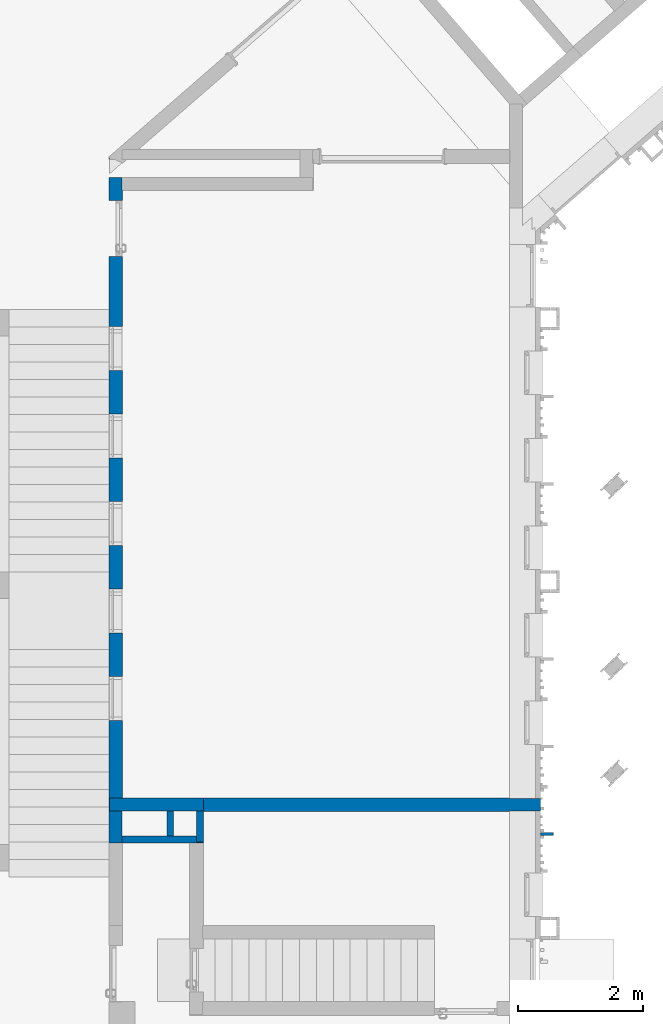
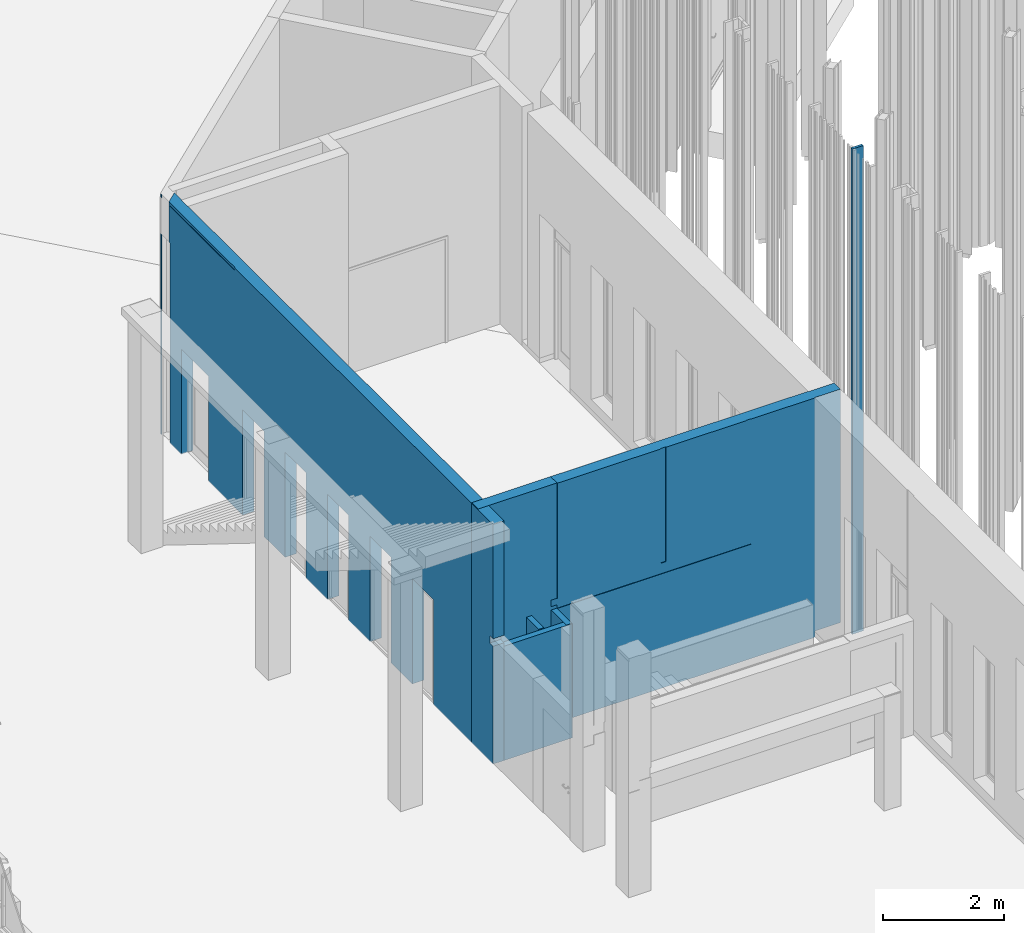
# One storey, part 187 of 390: 8 walls.
"""IFC2X3 building model written with IfcOpenShell, lengths in millimetres."""

from ifc_helpers import new_model, entity, si_unit, converted_unit, derived_unit, money_unit, direction, frame, origin_with_axes, place, context, subcontext, project, spatial, faceted_brep, material, material_list, type_object, element, save


model = new_model("IFC2X3")

# Units and contexts
model_context = context("Model", 3, precision=1e-05, world=origin_with_axes(), true_north=direction((0.0, 1.0)))
body_context = subcontext(model_context, "Body", "Model", "MODEL_VIEW")
ifc_project = project(units=[si_unit("LENGTHUNIT", "METRE", prefix="MILLI"), si_unit("AREAUNIT", "SQUARE_METRE"), si_unit("VOLUMEUNIT", "CUBIC_METRE"), converted_unit("PLANEANGLEUNIT", "DEGREE", entity("IfcPlaneAngleMeasure", 0.0174532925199), si_unit("PLANEANGLEUNIT", "RADIAN"), dimensions=[0, 0, 0, 0, 0, 0, 0]), si_unit("SOLIDANGLEUNIT", "STERADIAN"), money_unit("EUR"), converted_unit("TIMEUNIT", "Year", entity("IfcTimeMeasure", 31556926.0), si_unit("TIMEUNIT", "SECOND"), dimensions=[0, 0, 1, 0, 0, 0, 0]), si_unit("MASSUNIT", "GRAM", prefix="KILO"), si_unit("THERMODYNAMICTEMPERATUREUNIT", "DEGREE_CELSIUS"), si_unit("LUMINOUSINTENSITYUNIT", "LUMEN"), si_unit("ENERGYUNIT", "JOULE", prefix="MEGA"), derived_unit("THERMALCONDUCTANCEUNIT", [(si_unit("POWERUNIT", "WATT"), 1), (si_unit("LENGTHUNIT", "METRE"), -1), (si_unit("THERMODYNAMICTEMPERATUREUNIT", "KELVIN"), -1)]), derived_unit("SPECIFICHEATCAPACITYUNIT", [(si_unit("ENERGYUNIT", "JOULE"), 1), (si_unit("MASSUNIT", "GRAM", prefix="KILO"), -1), (si_unit("THERMODYNAMICTEMPERATUREUNIT", "KELVIN"), -1)]), derived_unit("MASSDENSITYUNIT", [(si_unit("MASSUNIT", "GRAM", prefix="KILO"), 1), (si_unit("VOLUMEUNIT", "CUBIC_METRE"), -1)])], contexts=[model_context])

# Site, building, storey
site_placement = place(None, origin_with_axes())
site = spatial("IfcSite", under=ifc_project, at=site_placement, Name="Site", CompositionType="ELEMENT")
building_placement = place(site_placement, origin_with_axes())
building = spatial("IfcBuilding", under=site, at=building_placement, Name="Building", CompositionType="ELEMENT")
storey_placement = place(building_placement, origin_with_axes())
storey = spatial("IfcBuildingStorey", under=building, at=storey_placement, Name="1 korrus", CompositionType="ELEMENT", Elevation=0.0)

# Walls
ifc_material_1 = material(Name="Müüriplokk - Konstuktsioon")
wall_type_1 = type_object("IfcWallType", Name="SS-09", PredefinedType="NOTDEFINED")
wall_1_placement = place(storey_placement, frame((133909.999998, 56540.0000083, -20.0), z_axis=(0.0, 0.0, 1.0), x_axis=(9.43084369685e-08, 1.0, 0.0)))
element("IfcWall", 1, at=wall_1_placement, inside=storey, type_object=wall_type_1, material=ifc_material_1, Name="SS-09", context=body_context, shape_type="Brep", body=[
    faceted_brep([(-1.21853958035e-05, 100.0, 0.0), (399.999923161, 100.000037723, 0.0), (399.999923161, 3.77233675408e-05, 0.0), (-2.81201550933e-06, 0.0, 0.0), (-1.21853958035e-05, 100.0, 2320.0), (399.999923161, 100.000037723, 2320.0), (399.999923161, 3.77233675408e-05, 2320.0), (-2.81201550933e-06, 0.0, 2320.0)], [[[0, 1, 2, 3]], [[4, 5, 1, 0]], [[6, 2, 1, 5]], [[3, 2, 6, 7]], [[7, 4, 0, 3]], [[7, 6, 5, 4]]]),
])
ifc_material_2 = material(Name="Krohv - Lubjakivi")
ifc_material_3 = material(Name="Raudbetoon - Konstruktsioon")
ifc_material_list_1 = material_list([ifc_material_2, ifc_material_2, ifc_material_3, ifc_material_2])
wall_type_2 = type_object("IfcWallType", Name="SS-10", PredefinedType="NOTDEFINED")
wall_2_placement = place(storey_placement, frame((139289.999977, 56929.9994348, -20.0), z_axis=(0.0, 0.0, 1.0), x_axis=(-1.0, 2.91206390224e-07, 0.0)))
element("IfcWall", 2, at=wall_2_placement, inside=storey, type_object=wall_type_2, material=ifc_material_list_1, Name="SS-10", context=body_context, shape_type="Brep", body=[
    faceted_brep([(1309.99997885, 0.0, 2500.0), (1309.99998176, -9.99976594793, 2500.0), (1309.99998176, -10.0, 4820.0), (1309.99997885, 0.0, 4820.0), (4899.99992003, -9.99902554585, 2500.0), (4899.99991885, 0.0, 2500.0), (4899.99992003, -10.0, 4820.0), (2929.99998212, -10.0, 4820.0), (2929.99998212, -10.0, 2520.0), (2829.99998212, -10.0, 2520.0), (2829.99998212, -10.0, 4820.0), (2829.9999792, 0.0, 4820.0), (2829.9999792, 0.0, 2520.0), (2929.9999792, 0.0, 2520.0), (2929.9999792, 0.0, 4820.0), (4899.99991885, 0.0, 4820.0)], [[[0, 1, 2, 3]], [[4, 1, 0, 5]], [[1, 4, 6, 7, 8, 9, 10, 2]], [[11, 3, 2, 10]], [[5, 0, 3, 11, 12, 13, 14, 15]], [[4, 5, 15, 6]], [[15, 14, 7, 6]], [[7, 14, 13, 8]], [[8, 13, 12, 9]], [[10, 9, 12, 11]]]),
    faceted_brep([(4899.99992003, -9.99902554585, 2300.0), (1209.99980918, -9.99978657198, 2300.0), (1209.99980918, -9.99978657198, 2320.0), (1209.99998176, -10.0, 4820.0), (-1.67673022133e-05, -10.0, 4819.99999946), (-0.0001868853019, -10.0, 0.0), (4899.99992003, -10.0, 0.0), (4899.99991886, 0.0, 2300.0), (1209.99980706, 0.0, 2300.0), (1209.99997885, 0.0, 4820.0), (-1.96793621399e-05, 0.0, 4819.99999946), (-0.000189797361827, 0.0, 0.0), (4899.99991886, 0.0, 0.0)], [[[0, 1, 2, 3, 4, 5, 6]], [[1, 0, 7, 8]], [[2, 1, 8, 9, 3]], [[9, 10, 4, 3]], [[11, 5, 4, 10]], [[11, 12, 6, 5]], [[7, 0, 6, 12]], [[8, 7, 12, 11, 10, 9]]]),
    faceted_brep([(-497.000042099, -10.0, 119.999998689), (-10.0001868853, -10.0, 120.0), (-10.000128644, -210.0, 120.0), (-496.999983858, -210.0, 119.999998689), (-10.0001868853, -10.0, 0.0), (-497.000042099, -10.0, 4820.0), (5009.99992838, -10.0, 4820.0), (5009.99990488, -10.0, 0.0), (-10.000128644, -210.0, 0.0), (5009.99992828, -210.0, 0.0), (5009.99995205, -210.0, 4820.0), (-496.999983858, -210.0, 4820.0)], [[[0, 1, 2, 3]], [[4, 1, 0, 5, 6, 7]], [[4, 8, 2, 1]], [[3, 2, 8, 9, 10, 11]], [[11, 5, 0, 3]], [[5, 11, 10, 6]], [[10, 9, 7, 6]], [[9, 8, 4, 7]]]),
    faceted_brep([(4.14739815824e-05, -210.0, 4819.99999947), (-0.000128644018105, -210.0, 0.0), (-0.0001257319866, -219.999923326, 0.0), (4.43860415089e-05, -220.0, 4819.99999947), (4899.9999437, -210.0, 4820.0), (4899.9999437, -210.0, 2500.0), (5009.9999437, -210.0, 2500.0), (5009.99994343, -210.0, 2370.00000107), (4899.99994343, -210.0, 2370.00000107), (4899.99994343, -210.0, 0.0), (4899.9999446, -219.999024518, 0.0), (4899.9999446, -219.999024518, 2370.00000107), (5009.9999446, -219.999002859, 2370.00000107), (5009.99994489, -219.999002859, 2500.0), (4899.99994489, -219.999024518, 2500.0), (4899.99994489, -219.999024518, 4820.0)], [[[0, 1, 2, 3]], [[1, 0, 4, 5, 6, 7, 8, 9]], [[2, 1, 9, 10]], [[2, 10, 11, 12, 13, 14, 15, 3]], [[15, 4, 0, 3]], [[4, 15, 14, 5]], [[5, 14, 13, 6]], [[6, 13, 12, 7]], [[11, 8, 7, 12]], [[11, 10, 9, 8]]]),
])
ifc_material_list_2 = material_list([ifc_material_2, ifc_material_2, ifc_material_2, ifc_material_3, ifc_material_2, ifc_material_2])
wall_3_placement = place(storey_placement, frame((132879.999997, 57150.0000251, -20.0), z_axis=(0.0, 0.0, 1.0), x_axis=(0.0, 1.0, 0.0)))
element("IfcWall", 3, at=wall_3_placement, inside=storey, type_object=wall_type_2, material=ifc_material_list_2, Name="SS-10", context=body_context, shape_type="Brep", body=[
    faceted_brep([(9923.17495141, -10.0000006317, 20.0), (9923.17495141, -10.0000006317, 4020.0), (9940.15906908, -10.0000006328, 4020.0), (9940.15906908, -10.0000143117, 4765.0), (7809.99997345, -10.0000837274, 4765.0), (7809.99997345, -10.0000837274, 4820.0), (-6.39488462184e-10, -9.99999999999, 4820.0), (-6.39488462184e-10, -9.99999999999, 0.0), (1240.05849614, -10.0000000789, 0.0), (1240.05849615, -10.0000000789, 20.0), (1240.05849615, -10.0000000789, 2120.0), (1940.05849615, -10.0000001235, 2120.0), (1940.05849615, -10.0000001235, 20.0), (1940.05849614, -10.0000001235, 0.0), (2640.05849614, -10.0000001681, 0.0), (2640.05849615, -10.0000001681, 20.0), (2640.05849615, -10.0000833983, 2120.0), (3340.05849615, -10.0000834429, 2120.0), (3340.05849615, -10.0000002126, 20.0), (3340.05849614, -10.0000002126, 0.0), (4040.05849614, -10.0000002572, 0.0), (4040.05849615, -10.0000002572, 20.0), (4040.05849615, -10.0000002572, 2120.0), (4740.05849615, -10.0000003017, 2120.0), (4740.05849615, -10.0000003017, 20.0), (4740.05849614, -10.0000003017, 0.0), (5440.05849614, -10.0000003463, 0.0), (5440.05849615, -10.0000003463, 20.0), (5440.05849615, -10.0000003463, 2120.0), (6140.05849615, -10.0000003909, 2120.0), (6140.05849615, -10.0000003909, 20.0), (6140.05849614, -10.0000003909, 0.0), (6840.05849614, -10.0000004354, 0.0), (6840.05849615, -10.0000004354, 20.0), (6840.05849615, -10.0000004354, 2120.0), (7540.05849615, -10.00000048, 2120.0), (7540.05849615, -10.00000048, 20.0), (7540.05849614, -10.00000048, 0.0), (8659.99998537, -10.0000005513, 0.0), (8659.99998538, -10.0000005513, 20.0), (8659.99998538, -10.0000005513, 2120.0), (9559.99998538, -10.0000006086, 2120.0), (9559.99998538, -10.0000006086, 20.0), (9559.99998537, -10.0000006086, 0.0), (9923.1749514, -10.0000006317, 0.0), (9923.17495141, -1.94071958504e-05, 20.0), (9923.17495141, -1.94071958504e-05, 4020.0), (9940.15876519, -1.94082758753e-05, 4020.0), (9940.15876519, -1.35628397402e-07, 4765.0), (7809.99997356, 0.0, 4765.0), (7809.99999804, 0.0, 4820.0), (0.0, 0.0, 4820.0), (0.0, 0.0, 0.0), (1240.05849614, -7.89555087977e-08, 0.0), (1240.05849615, -7.89555087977e-08, 20.0), (1240.05849615, 4.18225454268e-07, 2120.0), (1940.05849615, 3.73660213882e-07, 2120.0), (1940.05849615, -1.23520749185e-07, 20.0), (1940.05849614, -1.23520749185e-07, 0.0), (2640.05849614, -1.68085989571e-07, 0.0), (2640.05849615, -1.68085989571e-07, 20.0), (2640.05849615, 3.29094973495e-07, 2120.0), (3340.05849615, 2.84529733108e-07, 2120.0), (3340.05849615, -2.12651229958e-07, 20.0), (3340.05849614, -2.12651229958e-07, 0.0), (4040.05849614, -2.57188048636e-07, 0.0), (4040.05849615, -2.57188048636e-07, 20.0), (4040.05849615, 2.3999291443e-07, 2120.0), (4740.05849615, 1.95427674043e-07, 2120.0), (4740.05849615, -3.01753289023e-07, 20.0), (4740.05849614, -3.01753289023e-07, 0.0), (5440.05849614, -3.46318529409e-07, 0.0), (5440.05849615, -3.46318529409e-07, 20.0), (5440.05849615, 1.50862433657e-07, 2120.0), (6140.05849615, 1.0629719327e-07, 2120.0), (6140.05849615, -3.90883769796e-07, 20.0), (6140.05849614, -3.90883769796e-07, 0.0), (6840.05849614, -4.35449010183e-07, 0.0), (6840.05849615, -4.35449010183e-07, 20.0), (6840.05849615, 6.17319528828e-08, 2120.0), (7540.05849615, 1.7166712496e-08, 2120.0), (7540.05849615, -4.8001425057e-07, 20.0), (7540.05849614, -4.8001425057e-07, 0.0), (8659.99998537, -5.51295897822e-07, 0.0), (8659.99998538, -5.51295897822e-07, 20.0), (8659.99998538, -5.41149347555e-08, 2120.0), (9559.99998538, -1.11413100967e-07, 2120.0), (9559.99998538, -6.08594064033e-07, 20.0), (9559.99998537, -6.08594064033e-07, 0.0), (9923.1749514, -6.3172933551e-07, 0.0)], [[[0, 1, 2, 3, 4, 5, 6, 7, 8, 9, 10, 11, 12, 13, 14, 15, 16, 17, 18, 19, 20, 21, 22, 23, 24, 25, 26, 27, 28, 29, 30, 31, 32, 33, 34, 35, 36, 37, 38, 39, 40, 41, 42, 43, 44]], [[1, 0, 45, 46]], [[47, 2, 1, 46]], [[2, 47, 48, 3]], [[3, 48, 49, 4]], [[5, 4, 49, 50]], [[50, 51, 6, 5]], [[7, 6, 51, 52]], [[8, 7, 52, 53]], [[53, 54, 9, 8]], [[55, 10, 9, 54]], [[56, 11, 10, 55]], [[57, 12, 11, 56]], [[13, 12, 57, 58]], [[14, 13, 58, 59]], [[60, 15, 14, 59]], [[16, 15, 60, 61]], [[17, 16, 61, 62]], [[18, 17, 62, 63]], [[18, 63, 64, 19]], [[20, 19, 64, 65]], [[20, 65, 66, 21]], [[66, 67, 22, 21]], [[67, 68, 23, 22]], [[68, 69, 24, 23]], [[70, 25, 24, 69]], [[26, 25, 70, 71]], [[27, 26, 71, 72]], [[27, 72, 73, 28]], [[28, 73, 74, 29]], [[29, 74, 75, 30]], [[75, 76, 31, 30]], [[32, 31, 76, 77]], [[78, 33, 32, 77]], [[34, 33, 78, 79]], [[35, 34, 79, 80]], [[36, 35, 80, 81]], [[36, 81, 82, 37]], [[38, 37, 82, 83]], [[83, 84, 39, 38]], [[85, 40, 39, 84]], [[86, 41, 40, 85]], [[87, 42, 41, 86]], [[43, 42, 87, 88]], [[44, 43, 88, 89]], [[45, 0, 44, 89]], [[46, 45, 89, 88, 87, 86, 85, 84, 83, 82, 81, 80, 79, 78, 77, 76, 75, 74, 73, 72, 71, 70, 69, 68, 67, 66, 65, 64, 63, 62, 61, 60, 59, 58, 57, 56, 55, 54, 53, 52, 51, 50, 49, 48, 47]]]),
    faceted_brep([(10210.1749514, -1.94254710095e-05, 4020.0), (10210.1749514, -10.00000065, 4020.0), (10250.6023116, -10.0000006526, 4020.0), (10241.9094443, -6.52022436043e-07, 4020.0), (10210.1749514, -10.00000065, 20.0), (10210.1749514, -1.94254710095e-05, 20.0), (10210.1749514, -10.00000065, 0.0), (10250.6023116, -10.0000006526, 0.0), (10241.9094443, -6.52022436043e-07, 0.0), (10210.1749514, -6.50004494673e-07, 0.0)], [[[0, 1, 2, 3]], [[4, 1, 0, 5]], [[1, 4, 6, 7, 2]], [[3, 2, 7, 8]], [[5, 0, 3, 8, 9]], [[4, 5, 9, 6]], [[9, 8, 7, 6]]]),
    faceted_brep([(10210.1749514, -1.52823531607e-07, 4820.0), (10210.1749512, -10.000083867, 4820.0), (10250.6023116, -10.0000006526, 4820.0), (10241.9094443, -6.52022436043e-07, 4820.0), (10210.1749512, -10.0000055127, 4765.0), (10210.1749514, -1.52823531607e-07, 4765.0), (10250.6023116, -10.0000006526, 4765.0), (10241.9094443, -6.52022436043e-07, 4765.0)], [[[0, 1, 2, 3]], [[4, 1, 0, 5]], [[1, 4, 6, 2]], [[2, 6, 7, 3]], [[5, 0, 3, 7]], [[4, 5, 7, 6]]]),
    faceted_brep([(9923.1749514, -210.000000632, 20.0), (9923.1749514, -210.000000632, 4020.0), (10159.4570598, -210.000000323, 4020.0), (10159.4570605, -210.000000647, 4820.0), (-1.3372414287e-08, -210.0, 4820.0), (-1.3372414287e-08, -210.0, 0.0), (1240.05849614, -210.000000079, 0.0), (1240.05849614, -210.000000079, 20.0), (1240.05849614, -210.000000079, 2120.0), (1940.05849614, -210.000000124, 2120.0), (1940.05849614, -210.000000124, 20.0), (1940.05849614, -210.000000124, 0.0), (2640.05849614, -210.000000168, 0.0), (2640.05849614, -210.000000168, 20.0), (2640.05849614, -210.000000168, 2120.0), (3340.05849614, -210.000000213, 2120.0), (3340.05849614, -210.000000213, 20.0), (3340.05849614, -210.000000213, 0.0), (4040.05849614, -210.000000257, 0.0), (4040.05849614, -210.000000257, 20.0), (4040.05849614, -210.000000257, 2120.0), (4740.05849614, -210.000000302, 2120.0), (4740.05849614, -210.000000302, 20.0), (4740.05849614, -210.000000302, 0.0), (5440.05849614, -210.000000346, 0.0), (5440.05849614, -210.000000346, 20.0), (5440.05849614, -210.000000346, 2120.0), (6140.05849614, -210.000000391, 2120.0), (6140.05849614, -210.000000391, 20.0), (6140.05849614, -210.000000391, 0.0), (6840.05849614, -210.000000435, 0.0), (6840.05849614, -210.000000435, 20.0), (6840.05849614, -210.000000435, 2120.0), (7540.05849614, -210.00000048, 2120.0), (7540.05849614, -210.00000048, 20.0), (7540.05849614, -210.00000048, 0.0), (8659.99998537, -210.000000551, 0.0), (8659.99998537, -210.000000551, 20.0), (8659.99998537, -210.000000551, 2120.0), (9559.99998537, -210.000000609, 2120.0), (9559.99998537, -210.000000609, 20.0), (9559.99998537, -210.000000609, 0.0), (9923.1749514, -210.000000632, 0.0), (9923.17495141, -10.0000006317, 20.0), (9923.17495141, -10.0000006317, 4020.0), (9985.59971294, -10.0000006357, 4020.0), (9985.59971294, -10.0000006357, 4820.0), (-6.39488462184e-10, -9.99999999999, 4820.0), (-6.39488462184e-10, -9.99999999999, 0.0), (1240.05849614, -10.0000000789, 0.0), (1240.05849615, -10.0000000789, 20.0), (1240.05849615, -10.0000000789, 2120.0), (1940.05849615, -10.0000001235, 2120.0), (1940.05849615, -10.0000001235, 20.0), (1940.05849614, -10.0000001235, 0.0), (2640.05849614, -10.0000001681, 0.0), (2640.05849615, -10.0000001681, 20.0), (2640.05849615, -10.0000001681, 2120.0), (3340.05849615, -10.0000002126, 2120.0), (3340.05849615, -10.0000002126, 20.0), (3340.05849614, -10.0000002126, 0.0), (4040.05849614, -10.0000002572, 0.0), (4040.05849615, -10.0000002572, 20.0), (4040.05849615, -10.0000002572, 2120.0), (4740.05849615, -10.0000003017, 2120.0), (4740.05849615, -10.0000003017, 20.0), (4740.05849614, -10.0000003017, 0.0), (5440.05849614, -10.0000003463, 0.0), (5440.05849615, -10.0000003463, 20.0), (5440.05849615, -10.0000003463, 2120.0), (6140.05849615, -10.0000003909, 2120.0), (6140.05849615, -10.0000003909, 20.0), (6140.05849614, -10.0000003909, 0.0), (6840.05849614, -10.0000004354, 0.0), (6840.05849615, -10.0000004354, 20.0), (6840.05849615, -10.0000004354, 2120.0), (7540.05849615, -10.00000048, 2120.0), (7540.05849615, -10.00000048, 20.0), (7540.05849614, -10.00000048, 0.0), (8659.99998537, -10.0000005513, 0.0), (8659.99998538, -10.0000005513, 20.0), (8659.99998538, -10.0000005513, 2120.0), (9559.99998538, -10.0000006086, 2120.0), (9559.99998538, -10.0000006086, 20.0), (9559.99998537, -10.0000006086, 0.0), (9923.1749514, -10.0000006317, 0.0)], [[[0, 1, 2, 3, 4, 5, 6, 7, 8, 9, 10, 11, 12, 13, 14, 15, 16, 17, 18, 19, 20, 21, 22, 23, 24, 25, 26, 27, 28, 29, 30, 31, 32, 33, 34, 35, 36, 37, 38, 39, 40, 41, 42]], [[1, 0, 43, 44]], [[45, 2, 1, 44]], [[2, 45, 46, 3]], [[47, 4, 3, 46]], [[47, 48, 5, 4]], [[5, 48, 49, 6]], [[50, 7, 6, 49]], [[8, 7, 50, 51]], [[9, 8, 51, 52]], [[10, 9, 52, 53]], [[10, 53, 54, 11]], [[11, 54, 55, 12]], [[13, 12, 55, 56]], [[13, 56, 57, 14]], [[14, 57, 58, 15]], [[15, 58, 59, 16]], [[59, 60, 17, 16]], [[17, 60, 61, 18]], [[61, 62, 19, 18]], [[63, 20, 19, 62]], [[64, 21, 20, 63]], [[65, 22, 21, 64]], [[23, 22, 65, 66]], [[23, 66, 67, 24]], [[24, 67, 68, 25]], [[68, 69, 26, 25]], [[69, 70, 27, 26]], [[70, 71, 28, 27]], [[72, 29, 28, 71]], [[29, 72, 73, 30]], [[31, 30, 73, 74]], [[31, 74, 75, 32]], [[32, 75, 76, 33]], [[33, 76, 77, 34]], [[77, 78, 35, 34]], [[35, 78, 79, 36]], [[80, 37, 36, 79]], [[81, 38, 37, 80]], [[82, 39, 38, 81]], [[83, 40, 39, 82]], [[41, 40, 83, 84]], [[41, 84, 85, 42]], [[43, 0, 42, 85]], [[44, 43, 85, 84, 83, 82, 81, 80, 79, 78, 77, 76, 75, 74, 73, 72, 71, 70, 69, 68, 67, 66, 65, 64, 63, 62, 61, 60, 59, 58, 57, 56, 55, 54, 53, 52, 51, 50, 49, 48, 47, 46, 45]]]),
    faceted_brep([(9923.1749514, -220.000000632, 4020.0), (10154.8997971, -220.000000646, 4020.0), (10154.899798, -220.000000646, 4820.0), (9923.1749514, -220.000000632, 4820.0), (10146.2069306, -210.000000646, 4020.0), (9923.1749514, -210.000000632, 4020.0), (10146.2069306, -210.000000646, 4820.0), (9923.1749514, -210.000000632, 4820.0)], [[[0, 1, 2, 3]], [[4, 1, 0, 5]], [[1, 4, 6, 2]], [[3, 2, 6, 7]], [[5, 0, 3, 7]], [[4, 5, 7, 6]]]),
    faceted_brep([(8659.99998537, -220.000000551, 20.0), (8659.99998537, -220.000000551, 2120.0), (9559.99998537, -220.000000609, 2120.0), (9559.99998537, -220.000000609, 20.0), (9559.99998537, -220.000000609, 0.0), (9723.1749514, -220.000000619, 0.0), (9723.1749514, -220.000000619, 4820.0), (-1.40047973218e-08, -220.0, 4820.0), (-1.40047973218e-08, -220.0, 0.0), (1240.05849614, -220.000000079, 0.0), (1240.05849614, -220.000000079, 20.0), (1240.05849614, -220.000000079, 2120.0), (1940.05849614, -220.000000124, 2120.0), (1940.05849614, -220.000000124, 20.0), (1940.05849614, -220.000000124, 0.0), (2640.05849614, -220.000000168, 0.0), (2640.05849614, -220.000000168, 20.0), (2640.05849614, -220.000000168, 2120.0), (3340.05849614, -220.000000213, 2120.0), (3340.05849614, -220.000000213, 20.0), (3340.05849614, -220.000000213, 0.0), (4040.05849614, -220.000000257, 0.0), (4040.05849614, -220.000000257, 20.0), (4040.05849614, -220.000000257, 2120.0), (4740.05849614, -220.000000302, 2120.0), (4740.05849614, -220.000000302, 20.0), (4740.05849614, -220.000000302, 0.0), (5440.05849614, -220.000000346, 0.0), (5440.05849614, -220.000000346, 20.0), (5440.05849614, -220.000000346, 2120.0), (6140.05849614, -220.000000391, 2120.0), (6140.05849614, -220.000000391, 20.0), (6140.05849614, -220.000000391, 0.0), (6840.05849614, -220.000000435, 0.0), (6840.05849614, -220.000000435, 20.0), (6840.05849614, -220.000000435, 2120.0), (7540.05849614, -220.00000048, 2120.0), (7540.05849614, -220.00000048, 20.0), (7540.05849614, -220.00000048, 0.0), (8659.99998537, -220.000000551, 0.0), (8659.99998537, -210.000000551, 20.0), (8659.99998537, -210.000000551, 2120.0), (9559.99998537, -210.000000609, 2120.0), (9559.99998537, -210.000000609, 20.0), (9559.99998537, -210.000000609, 0.0), (9723.1749514, -210.000000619, 0.0), (9723.1749514, -210.000000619, 4820.0), (-1.3372414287e-08, -210.0, 4820.0), (-1.3372414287e-08, -210.0, 0.0), (1240.05849614, -210.000000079, 0.0), (1240.05849614, -210.000000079, 20.0), (1240.05849614, -210.000000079, 2120.0), (1940.05849614, -210.000000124, 2120.0), (1940.05849614, -210.000000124, 20.0), (1940.05849614, -210.000000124, 0.0), (2640.05849614, -210.000000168, 0.0), (2640.05849614, -210.000000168, 20.0), (2640.05849614, -210.000000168, 2120.0), (3340.05849614, -210.000000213, 2120.0), (3340.05849614, -210.000000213, 20.0), (3340.05849614, -210.000000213, 0.0), (4040.05849614, -210.000000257, 0.0), (4040.05849614, -210.000000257, 20.0), (4040.05849614, -210.000000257, 2120.0), (4740.05849614, -210.000000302, 2120.0), (4740.05849614, -210.000000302, 20.0), (4740.05849614, -210.000000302, 0.0), (5440.05849614, -210.000000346, 0.0), (5440.05849614, -210.000000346, 20.0), (5440.05849614, -210.000000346, 2120.0), (6140.05849614, -210.000000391, 2120.0), (6140.05849614, -210.000000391, 20.0), (6140.05849614, -210.000000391, 0.0), (6840.05849614, -210.000000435, 0.0), (6840.05849614, -210.000000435, 20.0), (6840.05849614, -210.000000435, 2120.0), (7540.05849614, -210.00000048, 2120.0), (7540.05849614, -210.00000048, 20.0), (7540.05849614, -210.00000048, 0.0), (8659.99998537, -210.000000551, 0.0)], [[[0, 1, 2, 3, 4, 5, 6, 7, 8, 9, 10, 11, 12, 13, 14, 15, 16, 17, 18, 19, 20, 21, 22, 23, 24, 25, 26, 27, 28, 29, 30, 31, 32, 33, 34, 35, 36, 37, 38, 39]], [[1, 0, 40, 41]], [[2, 1, 41, 42]], [[3, 2, 42, 43]], [[3, 43, 44, 4]], [[45, 5, 4, 44]], [[5, 45, 46, 6]], [[47, 7, 6, 46]], [[47, 48, 8, 7]], [[8, 48, 49, 9]], [[50, 10, 9, 49]], [[11, 10, 50, 51]], [[12, 11, 51, 52]], [[13, 12, 52, 53]], [[13, 53, 54, 14]], [[14, 54, 55, 15]], [[16, 15, 55, 56]], [[16, 56, 57, 17]], [[17, 57, 58, 18]], [[18, 58, 59, 19]], [[59, 60, 20, 19]], [[20, 60, 61, 21]], [[61, 62, 22, 21]], [[63, 23, 22, 62]], [[64, 24, 23, 63]], [[65, 25, 24, 64]], [[26, 25, 65, 66]], [[26, 66, 67, 27]], [[27, 67, 68, 28]], [[68, 69, 29, 28]], [[69, 70, 30, 29]], [[70, 71, 31, 30]], [[72, 32, 31, 71]], [[32, 72, 73, 33]], [[34, 33, 73, 74]], [[34, 74, 75, 35]], [[35, 75, 76, 36]], [[36, 76, 77, 37]], [[77, 78, 38, 37]], [[38, 78, 79, 39]], [[40, 0, 39, 79]], [[41, 40, 79, 78, 77, 76, 75, 74, 73, 72, 71, 70, 69, 68, 67, 66, 65, 64, 63, 62, 61, 60, 59, 58, 57, 56, 55, 54, 53, 52, 51, 50, 49, 48, 47, 46, 45, 44, 43, 42]]]),
])
ifc_material_list_3 = material_list([ifc_material_2, ifc_material_3])
wall_type_3 = type_object("IfcWallType", Name="SS-11", PredefinedType="NOTDEFINED")
wall_4_placement = place(storey_placement, frame((133089.99998, 56540.000006, -20.0), z_axis=(0.0, 0.0, 1.0), x_axis=(4.35012023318e-08, 1.0, 0.0)))
element("IfcWall", 4, at=wall_4_placement, inside=storey, type_object=wall_type_3, material=ifc_material_list_3, Name="SS-11", context=body_context, shape_type="Brep", body=[
    faceted_brep([(-8.70024052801e-06, 200.000000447, 2370.0), (-109.999994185, 199.999995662, 2370.0), (-109.999994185, 199.999995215, 0.0), (600.000012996, 200.000026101, 0.0), (600.000012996, 200.000026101, 4820.0), (-109.999997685, 199.999995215, 4820.0), (-109.999997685, 199.999995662, 2520.00002772), (-8.70024052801e-06, 200.000000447, 2520.00002772), (-109.99999462, 209.999995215, 2370.0), (-9.13525610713e-06, 210.0, 2370.0), (-109.99999462, 209.999995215, 0.0), (600.000013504, 210.000026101, 0.0), (600.000013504, 210.000026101, 4820.0), (-109.99999812, 209.999995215, 4820.0), (-109.99999812, 209.999995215, 2520.00002772), (-9.13525610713e-06, 210.0, 2520.00002772)], [[[0, 1, 2, 3, 4, 5, 6, 7]], [[8, 1, 0, 9]], [[1, 8, 10, 2]], [[2, 10, 11, 3]], [[3, 11, 12, 4]], [[13, 5, 4, 12]], [[14, 6, 5, 13]], [[6, 14, 15, 7]], [[0, 7, 15, 9]], [[15, 14, 13, 12, 11, 10, 8, 9]]]),
    faceted_brep([(0.0, 0.0, 2370.0), (-109.999985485, -4.78513584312e-06, 2370.0), (-109.999985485, -4.78513584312e-06, 0.0), (400.000002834, 1.7400481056e-05, 0.0), (400.000002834, 1.7400481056e-05, 4820.0), (-109.999988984, -4.78513584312e-06, 4820.0), (-109.999988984, -4.78513584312e-06, 2520.00002772), (0.0, 0.0, 2520.00002772), (-8.70024052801e-06, 200.000000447, 2370.0), (-109.999994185, 199.999995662, 2370.0), (-109.999994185, 199.999995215, 0.0), (400.000012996, 200.0000174, 0.0), (400.000012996, 200.0000174, 4820.0), (-109.999997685, 199.999995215, 4820.0), (-109.999997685, 199.999995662, 2520.00002772), (-8.70024052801e-06, 200.000000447, 2520.00002772)], [[[0, 1, 2, 3, 4, 5, 6, 7]], [[1, 0, 8, 9]], [[1, 9, 10, 2]], [[2, 10, 11, 3]], [[3, 11, 12, 4]], [[13, 5, 4, 12]], [[14, 6, 5, 13]], [[7, 6, 14, 15]], [[0, 7, 15, 8]], [[15, 14, 13, 12, 11, 10, 9, 8]]]),
])
ifc_material_list_4 = material_list([ifc_material_3, ifc_material_2])
wall_5_placement = place(storey_placement, frame((134280.00006, 56939.9998966, -20.0), z_axis=(0.0, 0.0, 1.0), x_axis=(-1.0, 9.43084216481e-08, 0.0)))
element("IfcWall", 5, at=wall_5_placement, inside=storey, type_object=wall_type_3, material=ifc_material_list_4, Name="SS-11", context=body_context, shape_type="Brep", body=[
    faceted_brep([(-110.0, -1.03739239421e-05, 2500.00000152), (-110.000015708, -200.000010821, 2500.00000152), (-110.000015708, -200.000010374, 4820.0), (-110.0, -1.03739239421e-05, 4820.0), (-1.98047587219e-05, 0.0, 2500.00000152), (-9.4308916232e-07, -200.000000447, 2500.00000152), (-9.4308916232e-07, -200.000000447, 2370.00000107), (-110.000015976, -200.000010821, 2370.00000107), (-110.000015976, -200.000010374, 0.0), (1390.00007283, -199.999868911, 0.0), (1390.00007283, -199.999868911, 4820.0), (1390.00006266, 0.000131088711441, 4820.0), (1390.00006266, 0.000131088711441, 0.0), (-110.0, -1.03739239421e-05, 0.0), (-110.0, -1.03739239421e-05, 2370.00000107), (-1.98047587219e-05, 0.0, 2370.00000107)], [[[0, 1, 2, 3]], [[1, 0, 4, 5]], [[6, 7, 8, 9, 10, 2, 1, 5]], [[3, 2, 10, 11]], [[4, 0, 3, 11, 12, 13, 14, 15]], [[6, 5, 4, 15]], [[14, 7, 6, 15]], [[7, 14, 13, 8]], [[8, 13, 12, 9]], [[9, 12, 11, 10]]]),
    faceted_brep([(-110.000015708, -200.000010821, 2500.00000152), (-110.000016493, -210.000010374, 2500.00000152), (-110.000016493, -210.000010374, 4820.0), (-110.000015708, -200.000010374, 4820.0), (0.0, -210.0, 2500.00000152), (-9.4308916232e-07, -200.000000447, 2500.00000152), (0.0, -210.0, 2370.00000107), (-110.000016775, -210.000010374, 2370.00000107), (-110.000016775, -210.000010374, 0.0), (1400.00007333, -209.999867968, 0.0), (1400.00007333, -209.999867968, 4820.0), (1400.00007283, -199.999867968, 4820.0), (1400.00007283, -199.999867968, 0.0), (-110.000015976, -200.000010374, 0.0), (-110.000015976, -200.000010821, 2370.00000107), (-9.4308916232e-07, -200.000000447, 2370.00000107)], [[[0, 1, 2, 3]], [[4, 1, 0, 5]], [[6, 7, 8, 9, 10, 2, 1, 4]], [[3, 2, 10, 11]], [[5, 0, 3, 11, 12, 13, 14, 15]], [[6, 4, 5, 15]], [[14, 7, 6, 15]], [[7, 14, 13, 8]], [[8, 13, 12, 9]], [[9, 12, 11, 10]]]),
])
ifc_material_4 = material(Name="Site specified")
wall_type_4 = type_object("IfcWallType", Name="Puitfassaadi ribistik", PredefinedType="NOTDEFINED")
wall_6_placement = place(storey_placement, frame((139891.499998, 56572.0000087, 100.000000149), z_axis=(0.0, 0.0, 1.0), x_axis=(0.0, -1.0, 0.0)))
element("IfcWall", 6, at=wall_6_placement, inside=storey, type_object=wall_type_4, material=ifc_material_4, Name="Site specified", context=body_context, shape_type="Brep", body=[
    faceted_brep([(-25.0, -104.5, 9764.99999985), (-25.0, -104.5, 0.0), (25.0, -104.5, 0.0), (25.0, -104.5, 9764.99999985), (-25.0, 104.5, 9764.99999985), (-25.0, 104.5, 0.0), (25.0, 104.5, 0.0), (25.0, 104.5, 9764.99999985)], [[[0, 1, 2, 3]], [[4, 5, 1, 0]], [[2, 1, 5, 6]], [[3, 2, 6, 7]], [[4, 0, 3, 7]], [[7, 6, 5, 4]]]),
])
ifc_material_list_5 = material_list([ifc_material_1, ifc_material_2])
wall_type_5 = type_object("IfcWallType", Name="SS-08", PredefinedType="NOTDEFINED")
wall_7_placement = place(storey_placement, frame((134279.99999, 56540.0000053, -20.0), z_axis=(0.0, 0.0, 1.0), x_axis=(1.74190877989e-07, 1.0, 0.0)))
element("IfcWall", 7, at=wall_7_placement, inside=storey, type_object=wall_type_5, material=ifc_material_list_5, Name="SS-08", context=body_context, shape_type="Brep", body=[
    faceted_brep([(399.999891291, 0.0, 2300.0), (400.000786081, -99.9999999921, 2300.0), (399.999899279, -100.0, 0.0), (399.999891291, 0.0, 0.0), (-99.9999826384, -100.0, 2300.0), (0.0, 0.0, 2300.0), (-100.0, 0.0, 2300.0), (-99.9999826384, -100.0, 0.0), (-100.0, 0.0, 0.0)], [[[0, 1, 2, 3]], [[4, 1, 0, 5, 6]], [[1, 4, 7, 2]], [[7, 8, 3, 2]], [[5, 0, 3, 8, 6]], [[4, 6, 8, 7]]]),
    faceted_brep([(400.000786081, -99.9999999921, 2300.0), (400.00087556, -110.0, 2300.0), (399.999900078, -110.0, 0.0), (399.999899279, -100.0, 0.0), (-109.999980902, -110.0, 2300.0), (-109.999982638, -100.0, 2300.0), (-109.999980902, -110.0, 0.0), (-109.999982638, -100.0, 0.0)], [[[0, 1, 2, 3]], [[4, 1, 0, 5]], [[1, 4, 6, 2]], [[3, 2, 6, 7]], [[5, 0, 3, 7]], [[4, 5, 7, 6]]]),
])
ifc_material_list_6 = material_list([ifc_material_2, ifc_material_1])
wall_8_placement = place(storey_placement, frame((134279.99999, 56540.0000053, -20.0), z_axis=(0.0, 0.0, 1.0), x_axis=(-1.0, 5.74673823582e-10, 0.0)))
element("IfcWall", 8, at=wall_8_placement, inside=storey, type_object=wall_type_5, material=ifc_material_list_6, Name="SS-08", context=body_context, shape_type="Brep", body=[
    faceted_brep([(1190.0000097, 100.000000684, 2300.0), (-99.9999826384, 99.9999999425, 2300.0), (-99.9999826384, 99.9999999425, 0.0), (1190.00001468, 100.000000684, 0.0), (-99.9999809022, 109.999999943, 2300.0), (1190.00000969, 110.000000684, 2300.0), (-99.9999809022, 109.999999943, 0.0), (1190.00001511, 110.000000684, 0.0)], [[[0, 1, 2, 3]], [[4, 1, 0, 5]], [[1, 4, 6, 2]], [[7, 3, 2, 6]], [[5, 0, 3, 7]], [[4, 5, 7, 6]]]),
    faceted_brep([(1190.00000985, 0.0, 2300.0), (-5.36829247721e-07, 0.0, 2300.0), (0.0, 0.0, 0.0), (1190.00001039, 6.83861856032e-07, 0.0), (1.73616285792e-05, 100.0, 2300.0), (1190.0000097, 100.000000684, 2300.0), (1.73616285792e-05, 100.0, 0.0), (1190.00001468, 100.000000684, 0.0)], [[[0, 1, 2, 3]], [[4, 1, 0, 5]], [[1, 4, 6, 2]], [[7, 3, 2, 6]], [[5, 0, 3, 7]], [[4, 5, 7, 6]]]),
])

save(model, "model.ifc")
